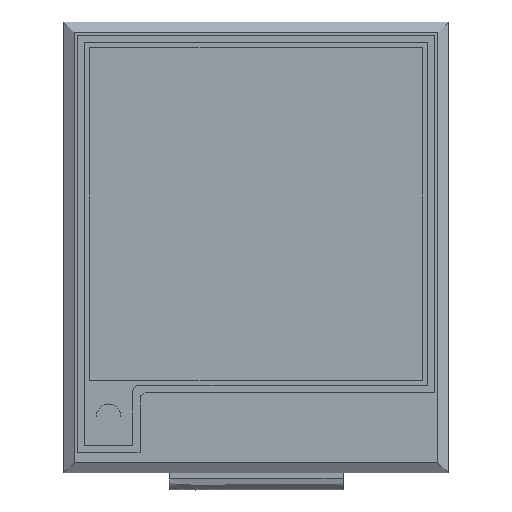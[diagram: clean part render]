
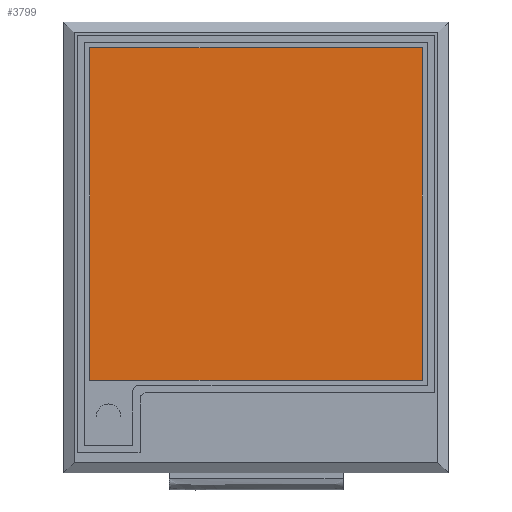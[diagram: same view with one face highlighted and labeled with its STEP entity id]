
A CAD part, top view. The second image highlights one B-rep face of the part: STEP entity #3799.
In plain terms, the highlighted planar face has unit normal (0, 0, 1).
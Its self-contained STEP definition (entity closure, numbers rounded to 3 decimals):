
#19 = CARTESIAN_POINT ( 'NONE',  ( 13.76, -10.99, 0.98 ) ) ;
#378 = PLANE ( 'NONE',  #1394 ) ;
#572 = CARTESIAN_POINT ( 'NONE',  ( -13.75, 0., 0.98 ) ) ;
#734 = VERTEX_POINT ( 'NONE', #5073 ) ;
#772 = VECTOR ( 'NONE', #2791, 1000. ) ;
#1042 = DIRECTION ( 'NONE',  ( 0., 0., 1. ) ) ;
#1194 = VECTOR ( 'NONE', #4988, 1000. ) ;
#1394 = AXIS2_PLACEMENT_3D ( 'NONE', #1567, #1042, #3143 ) ;
#1567 = CARTESIAN_POINT ( 'NONE',  ( 0., 0., 0.98 ) ) ;
#1612 = CARTESIAN_POINT ( 'NONE',  ( 13.76, 0., 0.98 ) ) ;
#1677 = EDGE_CURVE ( 'NONE', #734, #2649, #1904, .T. ) ;
#1904 = LINE ( 'NONE', #572, #772 ) ;
#1975 = VECTOR ( 'NONE', #7088, 1000. ) ;
#2066 = DIRECTION ( 'NONE',  ( -1., 0., 0. ) ) ;
#2459 = EDGE_CURVE ( 'NONE', #3340, #734, #5185, .T. ) ;
#2649 = VERTEX_POINT ( 'NONE', #6077 ) ;
#2791 = DIRECTION ( 'NONE',  ( 0., 1., 0. ) ) ;
#2895 = EDGE_LOOP ( 'NONE', ( #4459, #5538, #6473, #6203 ) ) ;
#3143 = DIRECTION ( 'NONE',  ( 1., 0., 0. ) ) ;
#3340 = VERTEX_POINT ( 'NONE', #19 ) ;
#3752 = CARTESIAN_POINT ( 'NONE',  ( 0., 16.52, 0.98 ) ) ;
#3799 = ADVANCED_FACE ( 'NONE', ( #4335 ), #378, .T. ) ;
#4158 = CARTESIAN_POINT ( 'NONE',  ( 13.76, 16.52, 0.98 ) ) ;
#4335 = FACE_OUTER_BOUND ( 'NONE', #2895, .T. ) ;
#4351 = EDGE_CURVE ( 'NONE', #2649, #5357, #6401, .T. ) ;
#4459 = ORIENTED_EDGE ( 'NONE', *, *, #1677, .F. ) ;
#4465 = EDGE_CURVE ( 'NONE', #5357, #3340, #5615, .T. ) ;
#4988 = DIRECTION ( 'NONE',  ( 0., -1., 0. ) ) ;
#5073 = CARTESIAN_POINT ( 'NONE',  ( -13.75, -10.99, 0.98 ) ) ;
#5185 = LINE ( 'NONE', #6425, #6819 ) ;
#5357 = VERTEX_POINT ( 'NONE', #4158 ) ;
#5538 = ORIENTED_EDGE ( 'NONE', *, *, #2459, .F. ) ;
#5615 = LINE ( 'NONE', #1612, #1194 ) ;
#6077 = CARTESIAN_POINT ( 'NONE',  ( -13.75, 16.52, 0.98 ) ) ;
#6203 = ORIENTED_EDGE ( 'NONE', *, *, #4351, .F. ) ;
#6401 = LINE ( 'NONE', #3752, #1975 ) ;
#6425 = CARTESIAN_POINT ( 'NONE',  ( 0., -10.99, 0.98 ) ) ;
#6473 = ORIENTED_EDGE ( 'NONE', *, *, #4465, .F. ) ;
#6819 = VECTOR ( 'NONE', #2066, 1000. ) ;
#7088 = DIRECTION ( 'NONE',  ( 1., 0., 0. ) ) ;
